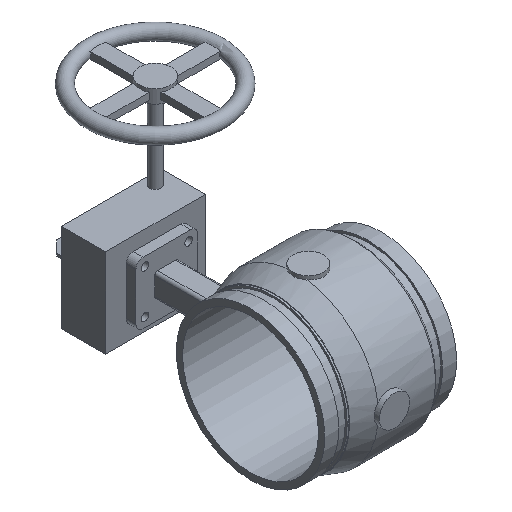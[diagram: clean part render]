
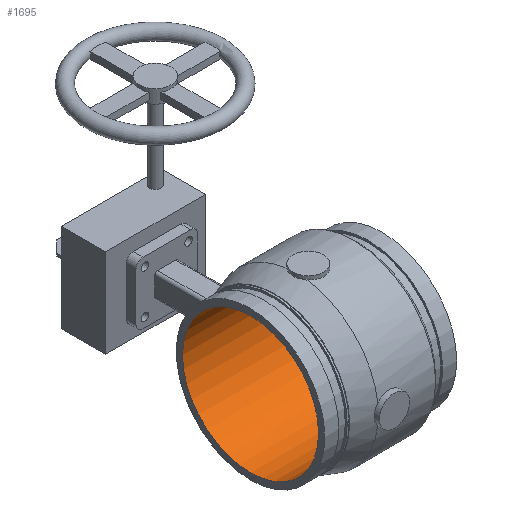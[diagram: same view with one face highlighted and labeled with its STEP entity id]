
A CAD part, isometric view. The second image highlights one B-rep face of the part: STEP entity #1695.
In plain terms, the highlighted cylindrical face has radius 77.025 mm (diameter 154.051 mm), a full revolution.
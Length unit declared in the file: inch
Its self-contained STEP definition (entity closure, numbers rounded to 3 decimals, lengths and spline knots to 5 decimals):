
#52=CYLINDRICAL_SURFACE('',#1827,3.0325);
#117=CIRCLE('',#1828,3.0325);
#118=CIRCLE('',#1829,3.0325);
#119=CIRCLE('',#1830,3.0325);
#120=CIRCLE('',#1831,3.0325);
#217=FACE_OUTER_BOUND('',#310,.T.);
#310=EDGE_LOOP('',(#1158,#1159,#1160,#1161,#1162,#1163));
#438=LINE('',#2874,#552);
#552=VECTOR('',#2099,3.0325);
#680=VERTEX_POINT('',#2870);
#681=VERTEX_POINT('',#2871);
#682=VERTEX_POINT('',#2873);
#683=VERTEX_POINT('',#2875);
#865=EDGE_CURVE('',#680,#681,#117,.T.);
#866=EDGE_CURVE('',#681,#682,#438,.T.);
#867=EDGE_CURVE('',#683,#682,#118,.T.);
#868=EDGE_CURVE('',#682,#683,#119,.T.);
#869=EDGE_CURVE('',#681,#680,#120,.T.);
#1158=ORIENTED_EDGE('',*,*,#865,.T.);
#1159=ORIENTED_EDGE('',*,*,#866,.T.);
#1160=ORIENTED_EDGE('',*,*,#867,.F.);
#1161=ORIENTED_EDGE('',*,*,#868,.F.);
#1162=ORIENTED_EDGE('',*,*,#866,.F.);
#1163=ORIENTED_EDGE('',*,*,#869,.T.);
#1695=ADVANCED_FACE('',(#217),#52,.F.);
#1827=AXIS2_PLACEMENT_3D('',#2869,#2095,#2096);
#1828=AXIS2_PLACEMENT_3D('',#2872,#2097,#2098);
#1829=AXIS2_PLACEMENT_3D('',#2876,#2100,#2101);
#1830=AXIS2_PLACEMENT_3D('',#2877,#2102,#2103);
#1831=AXIS2_PLACEMENT_3D('',#2878,#2104,#2105);
#2095=DIRECTION('center_axis',(1.,0.,0.));
#2096=DIRECTION('ref_axis',(0.,1.,0.));
#2097=DIRECTION('center_axis',(1.,0.,0.));
#2098=DIRECTION('ref_axis',(0.,0.,-1.));
#2099=DIRECTION('',(-1.,0.,0.));
#2100=DIRECTION('center_axis',(1.,0.,0.));
#2101=DIRECTION('ref_axis',(0.,0.,-1.));
#2102=DIRECTION('center_axis',(1.,0.,0.));
#2103=DIRECTION('ref_axis',(0.,0.,-1.));
#2104=DIRECTION('center_axis',(1.,0.,0.));
#2105=DIRECTION('ref_axis',(0.,0.,-1.));
#2869=CARTESIAN_POINT('Origin',(0.36,0.,
0.));
#2870=CARTESIAN_POINT('',(3.3,0.,-3.0325));
#2871=CARTESIAN_POINT('',(3.3,-3.0325,0.));
#2872=CARTESIAN_POINT('Origin',(3.3,0.,0.));
#2873=CARTESIAN_POINT('',(-2.58,-3.0325,0.));
#2874=CARTESIAN_POINT('',(0.36,-3.0325,0.));
#2875=CARTESIAN_POINT('',(-2.58,3.0325,0.));
#2876=CARTESIAN_POINT('Origin',(-2.58,0.,0.));
#2877=CARTESIAN_POINT('Origin',(-2.58,0.,0.));
#2878=CARTESIAN_POINT('Origin',(3.3,0.,0.));
